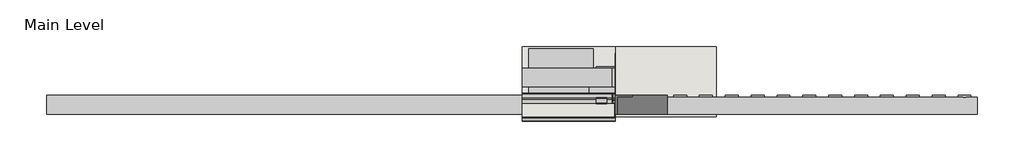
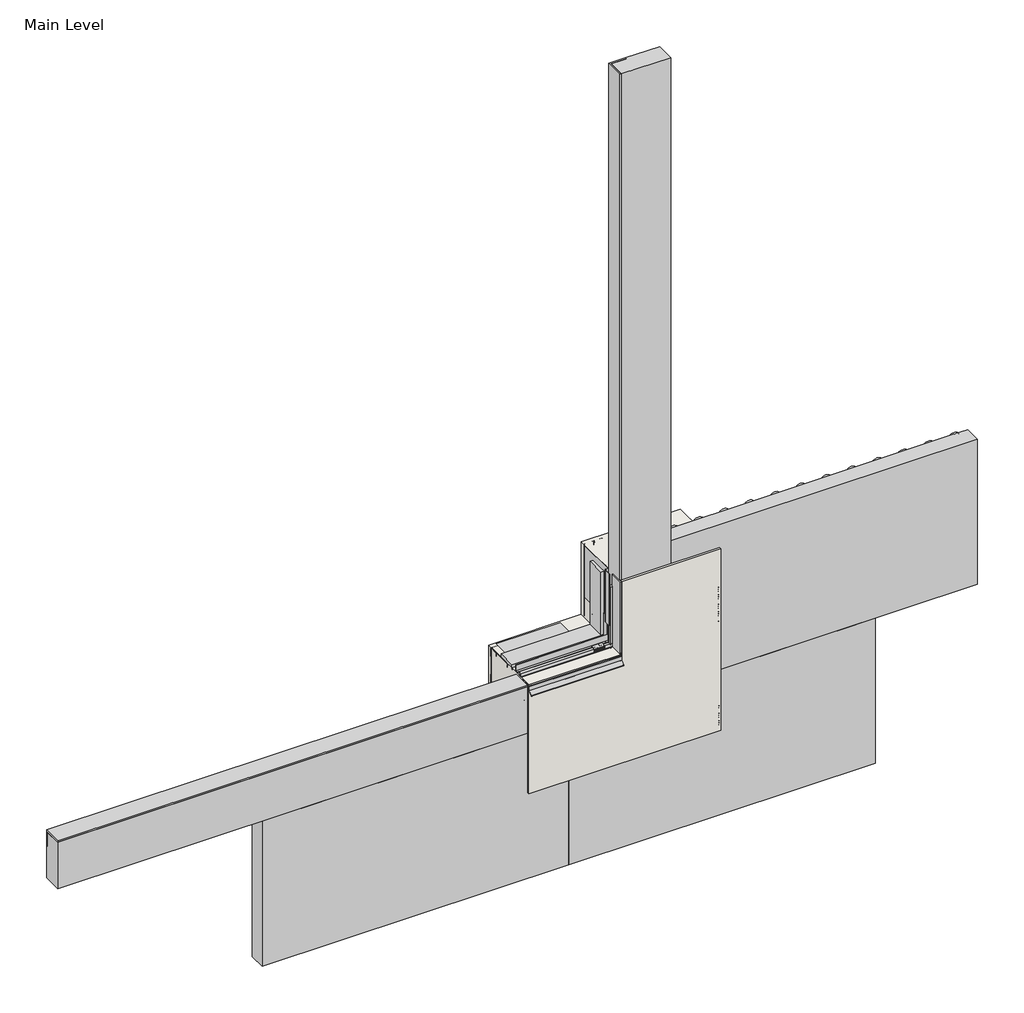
# One storey, incomplete: 28 proxies, 1 wall.
"""IFC4 building model written with IfcOpenShell, lengths in millimetres."""

from ifc_helpers import new_model, si_unit, frame, origin, place, context, project, spatial, polyline, outline, extrude, transform, mapped, element, save
from components import generic_models_31547c53, generic_models_d28646c3, generic_models_724a5e66, generic_models_aac0d774, generic_models_4f6b713c, generic_models_388356b2, generic_models_2850309d, generic_models_672f9cdd, generic_models_9b4c3a2c, generic_models_3fb7d6d8, proxy_4c3b85e5, proxy_c7e97176, proxy_46de1dcf, proxy_50213ae0, finish_coat_filler_finish_coat_filler_41560683, masonry_sill_masonry_sill_e13b050d, masonry_sill1_masonry_sill_7a2f01fb, masonry_sill3_masonry_sill_9eb3d358, masonry_sill4_masonry_sill_f52e6068, proxy_a3fd9b0b, proxy_3a0ad636, proxy_0073da47, proxy_6f3203ff, window_header_window_header_abd4ef46, wood_blocking_5320d369

model = new_model("IFC4")

# Units and contexts
model_context = context("Model", 3, world=origin())
ifc_project = project(units=[si_unit("LENGTHUNIT", "METRE", prefix="MILLI")], contexts=[model_context])

# Site, building, storey
site = spatial("IfcSite", under=ifc_project)
building = spatial("IfcBuilding", under=site)
storey = spatial("IfcBuildingStorey", under=building, Name="Main Level", Elevation=0.0)

# Proxies
placement = place(None, origin())
generic_models_shape = generic_models_31547c53(model_context)
element("IfcBuildingElementProxy", 1, Name="Durabond Generic Model Sealant Vent : Durabond Generic Model Sealant Vent", ObjectType="Durabond Generic Model Sealant Vent : Durabond Generic Model Sealant Vent", at=placement, inside=storey, context=model_context, shape_type="MappedRepresentation", body=[
    mapped(generic_models_shape, transform((26800.7195523, 590.8476543, 464.646745), x_axis=(1.0, 0.0, 0.0), y_axis=(0.0, 0.08715574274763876, -0.9961946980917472), z_axis=(0.0, 0.9961946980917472, 0.08715574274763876))),
])
generic_models_2_shape = generic_models_d28646c3(model_context)
element("IfcBuildingElementProxy", 2, Name="CRAi Generic Model Line Based Drip Deflector : CRAi Generic Model Line Based Drip Deflector", ObjectType="CRAi Generic Model Line Based Drip Deflector : CRAi Generic Model Line Based Drip Deflector", at=placement, inside=storey, context=model_context, shape_type="MappedRepresentation", body=[
    mapped(generic_models_2_shape, transform((26855.8851773, 535.1829375, 451.8088934), x_axis=(0.0, 0.996194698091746, 0.08715574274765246), y_axis=(-1.0, 0.0, 0.0), z_axis=(0.0, -0.0871557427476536, 0.996194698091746))),
])
generic_models_3_shape = generic_models_724a5e66(model_context)
element("IfcBuildingElementProxy", 3, Name="Durabond Generic Model Insulation Adhesive Flat : Durabond Generic Model Insulation Adhesive Flat", ObjectType="Durabond Generic Model Insulation Adhesive Flat : Durabond Generic Model Insulation Adhesive Flat", at=placement, inside=storey, context=model_context, shape_type="MappedRepresentation", body=[
    mapped(generic_models_3_shape, transform((26703.4851773, 627.6316297, 381.0), x_axis=(1.0, 0.0, 0.0), y_axis=(0.0, -1.0, 0.0), z_axis=(0.0, 0.0, -1.0))),
])
element("IfcBuildingElementProxy", 4, Name="Durabond Generic Model Insulation Adhesive Flat : Durabond Generic Model Insulation Adhesive Flat", ObjectType="Durabond Generic Model Insulation Adhesive Flat : Durabond Generic Model Insulation Adhesive Flat", at=placement, inside=storey, context=model_context, shape_type="MappedRepresentation", body=[
    mapped(generic_models_3_shape, transform((26805.0851773, 627.6316297, 381.0), x_axis=(1.0, 0.0, 0.0), y_axis=(0.0, -1.0, 0.0), z_axis=(0.0, 0.0, -1.0))),
])
generic_models_4_shape = generic_models_aac0d774(model_context)
element("IfcBuildingElementProxy", 5, Name="Durabond Generic Model Insulation Adhesive Flat : Durabond Generic Model Insulation Adhesive Flat", ObjectType="Durabond Generic Model Insulation Adhesive Flat : Durabond Generic Model Insulation Adhesive Flat", at=placement, inside=storey, context=model_context, shape_type="MappedRepresentation", body=[
    mapped(generic_models_4_shape, transform((26906.6851773, 627.6316297, 685.8043344), x_axis=(1.0, 0.0, 0.0), y_axis=(0.0, -1.0, 0.0), z_axis=(0.0, 0.0, -1.0))),
])
element("IfcBuildingElementProxy", 6, Name="Durabond Generic Model Insulation Adhesive Flat : Durabond Generic Model Insulation Adhesive Flat", ObjectType="Durabond Generic Model Insulation Adhesive Flat : Durabond Generic Model Insulation Adhesive Flat", at=placement, inside=storey, context=model_context, shape_type="MappedRepresentation", body=[
    mapped(generic_models_4_shape, transform((27008.2851773, 627.6316297, 685.8), x_axis=(1.0, 0.0, 0.0), y_axis=(0.0, -1.0, 0.0), z_axis=(0.0, 0.0, -1.0))),
])
element("IfcBuildingElementProxy", 7, Name="Durabond Generic Model Insulation Adhesive Flat : Durabond Generic Model Insulation Adhesive Flat", ObjectType="Durabond Generic Model Insulation Adhesive Flat : Durabond Generic Model Insulation Adhesive Flat", at=placement, inside=storey, context=model_context, shape_type="MappedRepresentation", body=[
    mapped(generic_models_4_shape, transform((27109.8851773, 627.6316297, 685.8), x_axis=(1.0, 0.0, 0.0), y_axis=(0.0, -1.0, 0.0), z_axis=(0.0, 0.0, -1.0))),
])
element("IfcBuildingElementProxy", 8, Name="Durabond Generic Model Insulation Adhesive Flat : Durabond Generic Model Insulation Adhesive Flat", ObjectType="Durabond Generic Model Insulation Adhesive Flat : Durabond Generic Model Insulation Adhesive Flat", at=placement, inside=storey, context=model_context, shape_type="MappedRepresentation", body=[
    mapped(generic_models_4_shape, transform((27211.4851773, 627.6316297, 685.8), x_axis=(1.0, 0.0, 0.0), y_axis=(0.0, -1.0, 0.0), z_axis=(0.0, 0.0, -1.0))),
])
generic_models_5_shape = generic_models_4f6b713c(model_context)
generic_models_6_shape = generic_models_388356b2(model_context)
generic_models_7_shape = generic_models_2850309d(model_context)
element("IfcBuildingElementProxy", 9, Name="CRAi Generic Model Mesh Piece Face Based : CRAi Generic Model Mesh Piece Face Based", ObjectType="CRAi Generic Model Mesh Piece Face Based : CRAi Generic Model Mesh Piece Face Based", at=placement, inside=storey, context=model_context, shape_type="MappedRepresentation", body=[
    mapped(generic_models_5_shape, transform((27052.7351773, 541.9066297, 530.3011686), x_axis=(-1.0, 0.0, 0.0), y_axis=(0.0, 0.0, -1.0), z_axis=(0.0, -1.0, 0.0))),
    mapped(generic_models_6_shape, transform((27052.7351773, 541.9066297, 530.3011686), x_axis=(-1.0, 0.0, 0.0), y_axis=(0.0, 0.0, -1.0), z_axis=(0.0, -1.0, 0.0))),
    mapped(generic_models_7_shape, transform((27052.7351773, 541.9066297, 530.3011686), x_axis=(-1.0, 0.0, 0.0), y_axis=(0.0, 0.0, -1.0), z_axis=(0.0, -1.0, 0.0))),
])
generic_models_8_shape = generic_models_672f9cdd(model_context)
generic_models_9_shape = generic_models_9b4c3a2c(model_context)
generic_models_10_shape = generic_models_3fb7d6d8(model_context)
element("IfcBuildingElementProxy", 10, Name="CRAi Generic Model Mesh Piece Face Based : CRAi Generic Model Mesh Piece Face Based", ObjectType="CRAi Generic Model Mesh Piece Face Based : CRAi Generic Model Mesh Piece Face Based", at=placement, inside=storey, context=model_context, shape_type="MappedRepresentation", body=[
    mapped(generic_models_8_shape, transform((26990.8226773, 541.9066297, 50.8), x_axis=(-1.0, 0.0, 0.0), y_axis=(0.0, 0.0, -1.0), z_axis=(0.0, -1.0, 0.0))),
    mapped(generic_models_9_shape, transform((26990.8226773, 541.9066297, 50.8), x_axis=(-1.0, 0.0, 0.0), y_axis=(0.0, 0.0, -1.0), z_axis=(0.0, -1.0, 0.0))),
    mapped(generic_models_10_shape, transform((26990.8226773, 541.9066297, 50.8), x_axis=(-1.0, 0.0, 0.0), y_axis=(0.0, 0.0, -1.0), z_axis=(0.0, -1.0, 0.0))),
])
proxy_shape = proxy_4c3b85e5(model_context)
element("IfcBuildingElementProxy", 11, Name="Durabond Generic Model Quantum Select 5-0 Boundary Board : 3\"", ObjectType="Durabond Generic Model Quantum Select 5-0 Boundary Board : 3\"", at=placement, inside=storey, context=model_context, shape_type="MappedRepresentation", body=[
    mapped(proxy_shape, transform((25839.8851773, 624.4566297, 349.375778), x_axis=(-1.0, 0.0, 0.0), y_axis=(0.0, 0.0, -1.0), z_axis=(0.0, -1.0, 0.0))),
])
proxy_2_shape = proxy_c7e97176(model_context)
element("IfcBuildingElementProxy", 12, Name="Durabond Generic Model Quantum Select 5-0 Boundary Board : 3\"", ObjectType="Durabond Generic Model Quantum Select 5-0 Boundary Board : 3\"", at=placement, inside=storey, context=model_context, shape_type="MappedRepresentation", body=[
    mapped(proxy_2_shape, transform((26957.4851773, 624.4566297, 1670.175778), x_axis=(0.0, 0.0, 1.0), y_axis=(-1.0, 0.0, 0.0), z_axis=(0.0, -1.0, 0.0))),
])
proxy_3_shape = proxy_46de1dcf(model_context)
element("IfcBuildingElementProxy", 13, Name="Durabond Generic Model Quantum Select 5-0 Insulation Board : 3\"", ObjectType="Durabond Generic Model Quantum Select 5-0 Insulation Board : 3\"", at=placement, inside=storey, context=model_context, shape_type="MappedRepresentation", body=[
    mapped(proxy_3_shape, transform((27262.2851773, 624.4566297, -57.024222), x_axis=(1.0, 0.0, 0.0), y_axis=(0.0, 0.0, 1.0), z_axis=(0.0, -1.0, 0.0))),
])
element("IfcBuildingElementProxy", 14, Name="Durabond Generic Model Quantum Select 5-0 Insulation Board : 3\"", ObjectType="Durabond Generic Model Quantum Select 5-0 Insulation Board : 3\"", at=placement, inside=storey, context=model_context, shape_type="MappedRepresentation", body=[
    mapped(proxy_3_shape, transform((27668.6851773, 624.4566297, 552.575778), x_axis=(1.0, 0.0, 0.0), y_axis=(0.0, 0.0, 1.0), z_axis=(0.0, -1.0, 0.0))),
])
proxy_4_shape = proxy_50213ae0(model_context)
element("IfcBuildingElementProxy", 15, Name="Durabond Generic Model Quantum Select 5-0 Insulation Board : 3\"", ObjectType="Durabond Generic Model Quantum Select 5-0 Insulation Board : 3\"", at=placement, inside=storey, context=model_context, shape_type="MappedRepresentation", body=[
    mapped(proxy_4_shape, transform((26043.0851773, 624.4566297, -57.024222), x_axis=(-1.0, 0.0, 0.0), y_axis=(0.0, 0.0, -1.0), z_axis=(0.0, -1.0, 0.0))),
])
finish_coat_filler_finish_coat_filler_shape = finish_coat_filler_finish_coat_filler_41560683(model_context)
element("IfcBuildingElementProxy", 16, Name="Finish Coat Filler : Finish Coat Filler", ObjectType="Finish Coat Filler : Finish Coat Filler", at=placement, inside=storey, context=model_context, shape_type="MappedRepresentation", body=[
    mapped(finish_coat_filler_finish_coat_filler_shape, transform((0.0, 0.0, 0.0), x_axis=(1.0, 0.0, 0.0), y_axis=(0.0, 1.0, 0.0), z_axis=(0.0, 0.0, 1.0))),
])
masonry_sill_masonry_sill_shape = masonry_sill_masonry_sill_e13b050d(model_context)
element("IfcBuildingElementProxy", 17, Name="Masonry Sill : Masonry Sill", ObjectType="Masonry Sill : Masonry Sill", at=placement, inside=storey, context=model_context, shape_type="MappedRepresentation", body=[
    mapped(masonry_sill_masonry_sill_shape, transform((0.0, 0.0, 0.0), x_axis=(1.0, 0.0, 0.0), y_axis=(0.0, 1.0, 0.0), z_axis=(0.0, 0.0, 1.0))),
])
masonry_sill1_masonry_sill_shape = masonry_sill1_masonry_sill_7a2f01fb(model_context)
element("IfcBuildingElementProxy", 18, Name="Masonry Sill1 : Masonry Sill", ObjectType="Masonry Sill1 : Masonry Sill", at=placement, inside=storey, context=model_context, shape_type="MappedRepresentation", body=[
    mapped(masonry_sill1_masonry_sill_shape, transform((0.0, 0.0, 0.0), x_axis=(1.0, 0.0, 0.0), y_axis=(0.0, 1.0, 0.0), z_axis=(0.0, 0.0, 1.0))),
])
masonry_sill3_masonry_sill_shape = masonry_sill3_masonry_sill_9eb3d358(model_context)
element("IfcBuildingElementProxy", 19, Name="Masonry Sill3 : Masonry Sill", ObjectType="Masonry Sill3 : Masonry Sill", at=placement, inside=storey, context=model_context, shape_type="MappedRepresentation", body=[
    mapped(masonry_sill3_masonry_sill_shape, transform((0.0, 0.0, 0.0), x_axis=(1.0, 0.0, 0.0), y_axis=(0.0, 1.0, 0.0), z_axis=(0.0, 0.0, 1.0))),
])
masonry_sill4_masonry_sill_shape = masonry_sill4_masonry_sill_f52e6068(model_context)
element("IfcBuildingElementProxy", 20, Name="Masonry Sill4 : Masonry Sill", ObjectType="Masonry Sill4 : Masonry Sill", at=placement, inside=storey, context=model_context, shape_type="MappedRepresentation", body=[
    mapped(masonry_sill4_masonry_sill_shape, transform((0.0, 0.0, -101.6), x_axis=(1.0, 0.0, 0.0), y_axis=(0.0, 1.0, 0.0), z_axis=(0.0, 0.0, 1.0))),
])
proxy_5_shape = proxy_a3fd9b0b(model_context)
element("IfcBuildingElementProxy", 21, Name="CRAi Generic Model Metal Stud : Metal Framing Stud - 1\" x 3.5\"", ObjectType="CRAi Generic Model Metal Stud : Metal Framing Stud - 1\" x 3.5\"", at=placement, inside=storey, context=model_context, shape_type="MappedRepresentation", body=[
    mapped(proxy_5_shape, transform((26876.5226773, 726.0566297, 0.0), x_axis=(1.0, 0.0, 0.0), y_axis=(0.0, 1.0, 0.0), z_axis=(0.0, 0.0, 1.0))),
])
proxy_6_shape = proxy_3a0ad636(model_context)
element("IfcBuildingElementProxy", 22, Name="CRAi Generic Model Metal Stud : Metal Framing Stud - 1\" x 3.5\"", ObjectType="CRAi Generic Model Metal Stud : Metal Framing Stud - 1\" x 3.5\"", at=placement, inside=storey, context=model_context, shape_type="MappedRepresentation", body=[
    mapped(proxy_6_shape, transform((26876.5226773, 726.0566297, 0.0), x_axis=(1.0, 0.0, 0.0), y_axis=(0.0, 1.0, 0.0), z_axis=(0.0, 0.0, 1.0))),
])
proxy_7_shape = proxy_0073da47(model_context)
element("IfcBuildingElementProxy", 23, Name="CRAi Generic Model Metal Stud : Metal Framing Stud - 1\" x 3.5\"", ObjectType="CRAi Generic Model Metal Stud : Metal Framing Stud - 1\" x 3.5\"", at=placement, inside=storey, context=model_context, shape_type="MappedRepresentation", body=[
    mapped(proxy_7_shape, transform((26914.6226773, 726.0566297, 0.0), x_axis=(-1.0, 0.0, 0.0), y_axis=(0.0, -1.0, 0.0), z_axis=(0.0, 0.0, 1.0))),
])
proxy_8_shape = proxy_6f3203ff(model_context)
element("IfcBuildingElementProxy", 24, Name="CRAi Generic Model Metal Stud : Metal Framing Stud - 1\" x 3.5\"", ObjectType="CRAi Generic Model Metal Stud : Metal Framing Stud - 1\" x 3.5\"", at=placement, inside=storey, context=model_context, shape_type="MappedRepresentation", body=[
    mapped(proxy_8_shape, transform((26508.2226773, 726.0566297, 0.0), x_axis=(-1.0, 0.0, 0.0), y_axis=(0.0, -1.0, 0.0), z_axis=(0.0, 0.0, 1.0))),
])
window_header_window_header_shape = window_header_window_header_abd4ef46(model_context)
element("IfcBuildingElementProxy", 25, Name="Window Header : Window Header", ObjectType="Window Header : Window Header", at=placement, inside=storey, context=model_context, shape_type="MappedRepresentation", body=[
    mapped(window_header_window_header_shape, transform((0.0, 0.0, 0.0), x_axis=(1.0, 0.0, 0.0), y_axis=(0.0, 1.0, 0.0), z_axis=(0.0, 0.0, 1.0))),
])
wood_blocking_shape = wood_blocking_5320d369(model_context)
element("IfcBuildingElementProxy", 26, Name="CRAi Generic Model Line Based Metal Framing Track : Wood Blocking", ObjectType="CRAi Generic Model Line Based Metal Framing Track : Wood Blocking", at=placement, inside=storey, context=model_context, shape_type="MappedRepresentation", body=[
    mapped(wood_blocking_shape, transform((26489.1726773, 649.8566297, 304.8), x_axis=(1.0, 0.0, 0.0), y_axis=(0.0, 1.0, 0.0), z_axis=(0.0, 0.0, 1.0))),
])
element("IfcBuildingElementProxy", 27, Name="CRAi Generic Model Line Based Metal Framing Track : Wood Blocking", ObjectType="CRAi Generic Model Line Based Metal Framing Track : Wood Blocking", at=placement, inside=storey, context=model_context, shape_type="MappedRepresentation", body=[
    mapped(wood_blocking_shape, transform((26489.1726773, 802.257101, 457.2), x_axis=(1.0, 0.0, 0.0), y_axis=(0.0, -1.0, 0.0), z_axis=(0.0, 0.0, -1.0))),
])
element("IfcBuildingElementProxy", 28, Name="CRAi Generic Model Line Based Metal Framing Track : Wood Blocking", ObjectType="CRAi Generic Model Line Based Metal Framing Track : Wood Blocking", at=placement, inside=storey, context=model_context, shape_type="MappedRepresentation", body=[
    mapped(wood_blocking_shape, transform((26489.1726773, 802.2566297, 304.8), x_axis=(1.0, 0.0, 0.0), y_axis=(0.0, -1.0, 0.0), z_axis=(0.0, 0.0, -1.0))),
])

# Wall
element("IfcWall", 29, ObjectType="189mm (7.5”) EIFS Field Applied on Mtl. Stud Layer - 50mm Grooved Insulation Board Metal Stud Wall", at=placement, inside=storey, context=model_context, shape_type="SweptSolid", body=[
    extrude(outline(polyline([(0.0, 26489.1726773), (0.0, 27251.1726773), (762.0, 27251.1726773), (762.0, 26857.4726773), (457.2, 26857.4726773), (457.2, 26489.1726773), (0.0, 26489.1726773)])), frame((0.0, 538.7316297, 0.0), z_axis=(0.0, 1.0, 0.0), x_axis=(0.0, 0.0, 1.0)), (0.0, 0.0, 1.0), 276.225),
])

save(model, "model.ifc")
